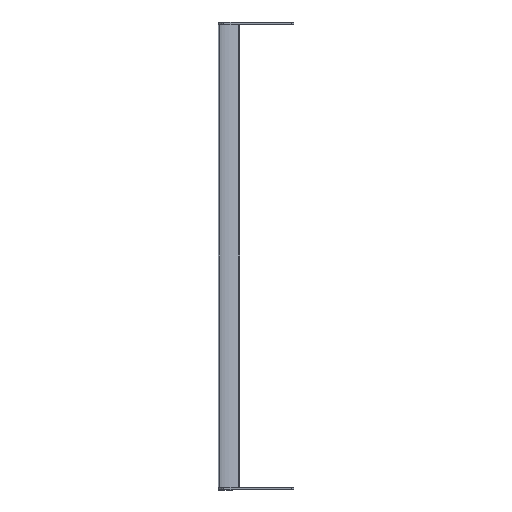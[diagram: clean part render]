
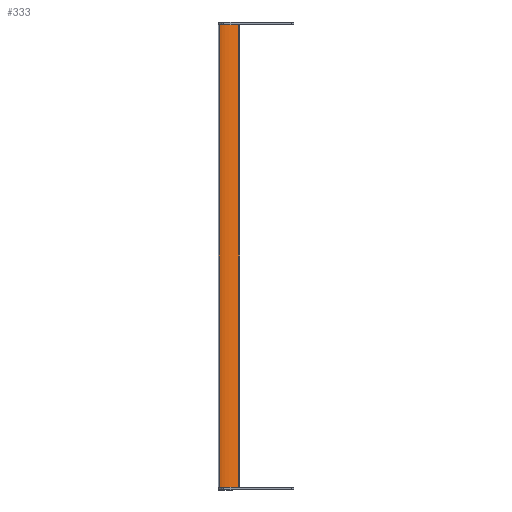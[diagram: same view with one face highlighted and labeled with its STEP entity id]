
A CAD part, left-side view. The second image highlights one B-rep face of the part: STEP entity #333.
In plain terms, the highlighted cylindrical face has radius 40.64 mm (diameter 81.28 mm), a partial arc.
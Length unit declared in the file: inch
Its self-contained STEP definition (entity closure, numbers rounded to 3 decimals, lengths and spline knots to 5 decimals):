
#40=CARTESIAN_POINT('',(-1.52,1.63,-11.118));
#41=DIRECTION('',(0.,0.,-1.));
#42=DIRECTION('',(0.914,-0.405,0.));
#43=AXIS2_PLACEMENT_3D('',#40,#41,#42);
#87=CARTESIAN_POINT('',(-1.52,1.63,11.118));
#88=DIRECTION('',(0.,0.,-1.));
#89=DIRECTION('',(0.914,-0.405,0.));
#90=AXIS2_PLACEMENT_3D('',#87,#88,#89);
#118=DIRECTION('',(0.,0.,1.));
#119=VECTOR('',#118,22.236);
#120=CARTESIAN_POINT('',(-1.00032,0.11675,-11.118));
#121=LINE('',#120,#119);
#122=DIRECTION('',(0.,0.,1.));
#123=VECTOR('',#122,22.236);
#124=CARTESIAN_POINT('',(-0.05742,0.98126,-11.118));
#125=LINE('',#124,#123);
#154=CARTESIAN_POINT('',(-0.05742,0.98126,-11.118));
#155=VERTEX_POINT('',#154);
#156=CARTESIAN_POINT('',(-1.00032,0.11675,-11.118));
#157=VERTEX_POINT('',#156);
#174=CARTESIAN_POINT('',(-0.05742,0.98126,11.118));
#175=VERTEX_POINT('',#174);
#176=CARTESIAN_POINT('',(-1.00032,0.11675,11.118));
#177=VERTEX_POINT('',#176);
#321=CARTESIAN_POINT('',(-1.52,1.63,-11.118));
#322=DIRECTION('',(0.,0.,1.));
#323=DIRECTION('',(1.,0.,0.));
#324=AXIS2_PLACEMENT_3D('',#321,#322,#323);
#325=CYLINDRICAL_SURFACE('',#324,1.6);
#326=ORIENTED_EDGE('',*,*,#191,.F.);
#328=ORIENTED_EDGE('',*,*,#327,.T.);
#329=ORIENTED_EDGE('',*,*,#247,.T.);
#330=ORIENTED_EDGE('',*,*,#314,.F.);
#331=EDGE_LOOP('',(#326,#328,#329,#330));
#332=FACE_OUTER_BOUND('',#331,.F.);
#44=CIRCLE('',#43,1.6);
#91=CIRCLE('',#90,1.6);
#191=EDGE_CURVE('',#155,#157,#44,.T.);
#247=EDGE_CURVE('',#175,#177,#91,.T.);
#314=EDGE_CURVE('',#157,#177,#121,.T.);
#327=EDGE_CURVE('',#155,#175,#125,.T.);
#333=ADVANCED_FACE('',(#332),#325,.F.);
